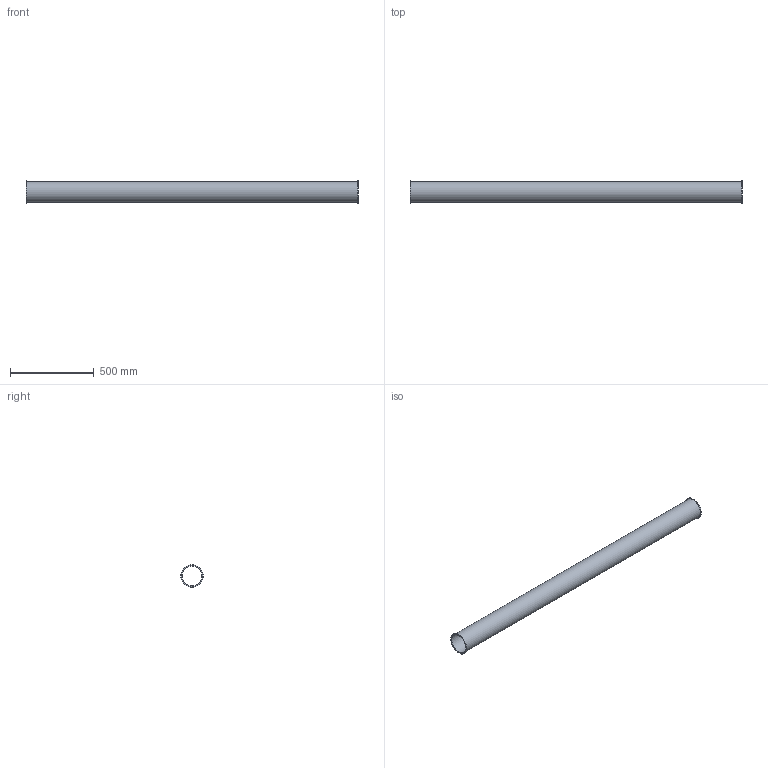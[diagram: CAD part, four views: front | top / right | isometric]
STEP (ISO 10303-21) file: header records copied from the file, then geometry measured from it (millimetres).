
FILE_DESCRIPTION((''),'2;1');
FILE_NAME('U:\Wolfgang\Marcel-3D\fertig\Kapitel 1\1221001.stp','2010-05-31T11:01:52',('TK2'),(''),'Autodesk Inventor 2010','Autodesk Inventor 2010','');
FILE_SCHEMA(('AUTOMOTIVE_DESIGN { 1 0 10303 214 1 1 1 1 }'));
Length unit declared in the file: millimetre
Products named in the file (1): 1221001
Bounding box: 1986 x 135 x 135 mm (x, y, z)
Volume: 1519613.5 mm3; surface area: 1521284.8 mm2
Topology: 1 solids, 1 shells, 8 faces, 12 edges, 8 vertices
Faces by surface type: cylinder 4, plane 4
Full cylindrical faces by diameter (mm): 119 x1, 123 x1, 135 x2
Entity records: 194 total; most frequent: DIRECTION 34, CARTESIAN_POINT 25, AXIS2_PLACEMENT_3D 17, ORIENTED_EDGE 16, EDGE_LOOP 16, VERTEX_POINT 8, CIRCLE 8, EDGE_CURVE 8
